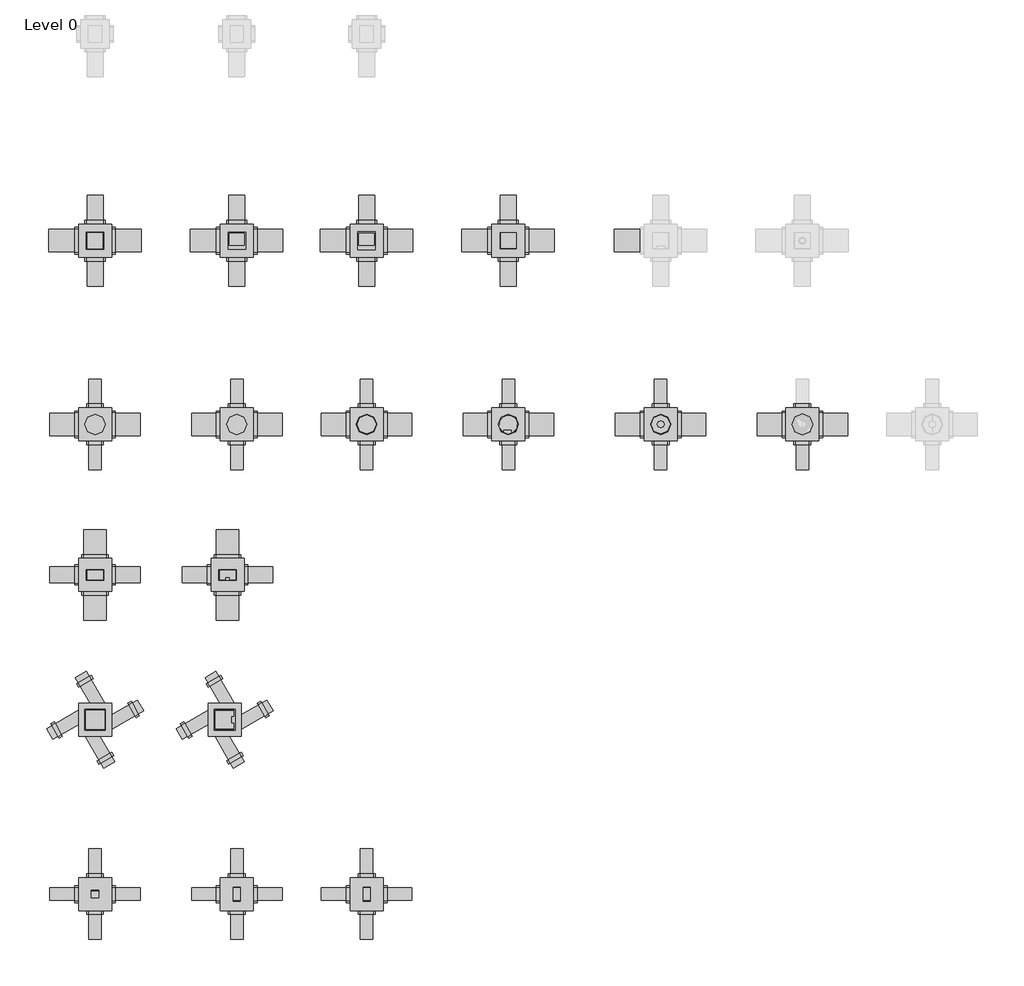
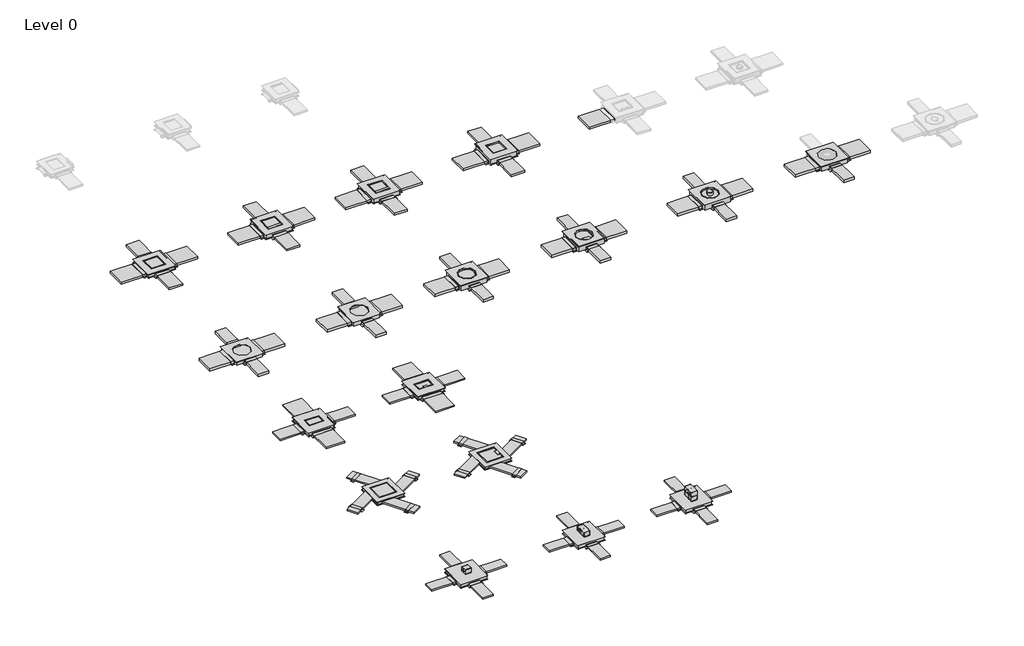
# One storey, part 1 of 2: 68 cable carrier segments, 17 cable carrier fittings, 14 proxies.
"""IFC4 building model written with IfcOpenShell, lengths in millimetres."""

from ifc_helpers import new_model, si_unit, frame, origin, place, context, project, spatial, polyline, outline, extrude, transform, mapped, element, save
from components import electrical_fixtures_403837cc, electrical_fixtures_d3cc217f, electrical_fixtures_8427cab8, electrical_fixtures_bc675c06, color_deep_black_c19cb628, color_deep_black_fa90bbad, color_deep_black_c4cdae59, color_deep_black_3e0b7094, color_deep_black_f01a6ed9, color_deep_black_919f03ab, stainless_steel_cassette_q12_bl_outer_height_28mm_38aa1d54, stainless_steel_cassette_r12_bl_outer_height_28mm_3aa149c4, stainless_steel_cassette_r12_le_outer_height_28mm_2c233eef, stainless_steel_cassette_r12_tm_outer_height_28mm_0be30e54, cable_carrier_fitting_cb3f23ee, cable_carrier_fitting_f97b21a2, cable_carrier_fitting_74eefb0c, cable_carrier_fitting_8ec82d7f, cable_carrier_fitting_5f74ec3e, universal_junction_box_with_bottom_plate_size_3_e0c27931, universal_junction_box_with_bottom_plate_size_3_beba6617, universal_junction_box_with_bottom_plate_size_3_e983a607, universal_junction_box_with_bottom_plate_size_3_fc0b7f47, universal_junction_box_with_bottom_plate_size_3_c41442bd, universal_junction_box_with_bottom_plate_size_3_7e383dc2, universal_junction_box_with_sheet_metal_casing_size_3_1634ce7a

model = new_model("IFC4")

# Units and contexts
model_context = context("Model", 3, world=origin())
ifc_project = project(units=[si_unit("LENGTHUNIT", "METRE", prefix="MILLI")], contexts=[model_context])

# Site, building, storey
site = spatial("IfcSite", under=ifc_project)
building = spatial("IfcBuilding", under=site)
storey = spatial("IfcBuildingStorey", under=building, Name="Level 0", Elevation=0.0)

# Proxies
placement = place(None, origin())
electrical_fixtures_shape = electrical_fixtures_403837cc(model_context)
element("IfcBuildingElementProxy", 1, Name="Electrical_Installation_Hager_VE-EE_Pedestal-box-8 : GB pedestal box 8 inst. fields iron gray", ObjectType="Electrical_Installation_Hager_VE-EE_Pedestal-box-8 : GB pedestal box 8 inst. fields iron gray", at=placement, inside=storey, context=model_context, shape_type="MappedRepresentation", body=[
    mapped(electrical_fixtures_shape, transform((-4342.5203768, -11668.1416898, 56.0), x_axis=(1.0, 0.0, 0.0), y_axis=(0.0, 1.0, 0.0), z_axis=(0.0, 0.0, 1.0))),
])
electrical_fixtures_2_shape = electrical_fixtures_d3cc217f(model_context)
element("IfcBuildingElementProxy", 2, Name="Electrical_Installation_Hager_VE-EE_Pedestal-box-4 : GB pedestal box 4 inst. fields iron gray", ObjectType="Electrical_Installation_Hager_VE-EE_Pedestal-box-4 : GB pedestal box 4 inst. fields iron gray", at=placement, inside=storey, context=model_context, shape_type="MappedRepresentation", body=[
    mapped(electrical_fixtures_2_shape, transform((-6302.5203768, -11668.1416898, 56.0), x_axis=(1.0, 0.0, 0.0), y_axis=(0.0, 1.0, 0.0), z_axis=(0.0, 0.0, 1.0))),
])
electrical_fixtures_3_shape = electrical_fixtures_8427cab8(model_context)
element("IfcBuildingElementProxy", 3, Name="Electrical_Installation_Hager_VE-EE_Service-unit-VQ12-made-of-stainless-steel : Electrical_Installation_Hager_VE-EE_Service-unit-VQ12-made-of-stainless-steel", ObjectType="Electrical_Installation_Hager_VE-EE_Service-unit-VQ12-made-of-stainless-steel : Electrical_Installation_Hager_VE-EE_Service-unit-VQ12-made-of-stainless-steel", at=placement, inside=storey, context=model_context, shape_type="MappedRepresentation", body=[
    mapped(electrical_fixtures_3_shape, transform((-4342.5203768, -1802.7596237, 73.0), x_axis=(1.0, 0.0, 0.0), y_axis=(0.0, 1.0, 0.0), z_axis=(0.0, 0.0, 1.0))),
])
electrical_fixtures_4_shape = electrical_fixtures_bc675c06(model_context)
element("IfcBuildingElementProxy", 4, Name="Electrical_Installation_Hager_VE-EE_Pedestal-box-2 : GB pedestal box 2 inst. fields iron gray", ObjectType="Electrical_Installation_Hager_VE-EE_Pedestal-box-2 : GB pedestal box 2 inst. fields iron gray", at=placement, inside=storey, context=model_context, shape_type="MappedRepresentation", body=[
    mapped(electrical_fixtures_4_shape, transform((-8442.5203768, -11668.1416898, 56.0), x_axis=(1.0, 0.0, 0.0), y_axis=(0.0, 1.0, 0.0), z_axis=(0.0, 0.0, 1.0))),
])
color_deep_black_shape = color_deep_black_c19cb628(model_context)
element("IfcBuildingElementProxy", 5, Name="Electrical_Installation_Hager_VE-EE_Cover-VDQ12 : Color Deep Black", ObjectType="Electrical_Installation_Hager_VE-EE_Cover-VDQ12 : Color Deep Black", at=placement, inside=storey, context=model_context, shape_type="MappedRepresentation", body=[
    mapped(color_deep_black_shape, transform((-8442.5203768, -1802.7596237, 49.0), x_axis=(1.0, 0.0, 0.0), y_axis=(0.0, 1.0, 0.0), z_axis=(0.0, 0.0, 1.0))),
])
color_deep_black_2_shape = color_deep_black_fa90bbad(model_context)
element("IfcBuildingElementProxy", 6, Name="Electrical_Installation_Hager_VE-EE_Service-Unit-VQ12 : Color Deep Black", ObjectType="Electrical_Installation_Hager_VE-EE_Service-Unit-VQ12 : Color Deep Black", at=placement, inside=storey, context=model_context, shape_type="MappedRepresentation", body=[
    mapped(color_deep_black_2_shape, transform((-6302.5203768, -1802.7596237, 66.0), x_axis=(1.0, 0.0, 0.0), y_axis=(0.0, 1.0, 0.0), z_axis=(0.0, 0.0, 1.0))),
])
color_deep_black_3_shape = color_deep_black_c4cdae59(model_context)
element("IfcBuildingElementProxy", 7, Name="Electrical_Installation_Hager_VE-EE_Cover-BDE04 : Color Deep Black", ObjectType="Electrical_Installation_Hager_VE-EE_Cover-BDE04 : Color Deep Black", at=placement, inside=storey, context=model_context, shape_type="MappedRepresentation", body=[
    mapped(color_deep_black_3_shape, transform((-8442.5203768, -6848.9254072, 56.0), x_axis=(1.0, 0.0, 0.0), y_axis=(0.0, 1.0, 0.0), z_axis=(0.0, 0.0, 1.0))),
])
color_deep_black_4_shape = color_deep_black_3e0b7094(model_context)
element("IfcBuildingElementProxy", 8, Name="Electrical_Installation_Hager_VE-EE_Cover-BDQ08 : Color Deep Black", ObjectType="Electrical_Installation_Hager_VE-EE_Cover-BDQ08 : Color Deep Black", at=placement, inside=storey, context=model_context, shape_type="MappedRepresentation", body=[
    mapped(color_deep_black_4_shape, transform((-8442.5203768, -9035.5969539, 47.0), x_axis=(1.0, 0.0, 0.0), y_axis=(0.0, 1.0, 0.0), z_axis=(0.0, 0.0, 1.0))),
])
color_deep_black_5_shape = color_deep_black_f01a6ed9(model_context)
element("IfcBuildingElementProxy", 9, Name="Electrical_Installation_Hager_VE-EE_Cover-KDQ08 : Color Deep Black", ObjectType="Electrical_Installation_Hager_VE-EE_Cover-KDQ08 : Color Deep Black", at=placement, inside=storey, context=model_context, shape_type="MappedRepresentation", body=[
    mapped(color_deep_black_5_shape, transform((-6485.5203768, -9035.5969539, 39.0), x_axis=(1.0, 0.0, 0.0), y_axis=(0.0, 1.0, 0.0), z_axis=(0.0, 0.0, 1.0))),
])
color_deep_black_6_shape = color_deep_black_919f03ab(model_context)
element("IfcBuildingElementProxy", 10, Name="Electrical_Installation_Hager_VE-EE_Cover-KDE04 : Color Deep Black", ObjectType="Electrical_Installation_Hager_VE-EE_Cover-KDE04 : Color Deep Black", at=placement, inside=storey, context=model_context, shape_type="MappedRepresentation", body=[
    mapped(color_deep_black_6_shape, transform((-6442.5203768, -6848.9254072, 56.0), x_axis=(1.0, 0.0, 0.0), y_axis=(0.0, 1.0, 0.0), z_axis=(0.0, 0.0, 1.0))),
])
stainless_steel_cassette_q12_bl_outer_height_28mm_shape = stainless_steel_cassette_q12_bl_outer_height_28mm_38aa1d54(model_context)
element("IfcBuildingElementProxy", 11, Name="Electrical_Installation_Hager_VE-EE_EKQ-Height-adjustable-stainless-steel-cassette-blank-square-for-damp-cleaned-floors : Stainless-steel cassette Q12 BL outer height 28mm", ObjectType="Electrical_Installation_Hager_VE-EE_EKQ-Height-adjustable-stainless-steel-cassette-blank-square-for-damp-cleaned-floors : Stainless-steel cassette Q12 BL outer height 28mm", at=placement, inside=storey, context=model_context, shape_type="MappedRepresentation", body=[
    mapped(stainless_steel_cassette_q12_bl_outer_height_28mm_shape, transform((-2202.5203768, -1802.7596237, 89.0), x_axis=(1.0, 0.0, 0.0), y_axis=(0.0, 1.0, 0.0), z_axis=(0.0, 0.0, 1.0))),
])
stainless_steel_cassette_r12_bl_outer_height_28mm_shape = stainless_steel_cassette_r12_bl_outer_height_28mm_3aa149c4(model_context)
element("IfcBuildingElementProxy", 12, Name="Electrical_Installation_Hager_VE-EE_EKR-Height-adjustable-stainless-steel-cassette-blank-round-for-damp-cleaned-floors : Stainless-steel cassette R12 BL outer height 28mm", ObjectType="Electrical_Installation_Hager_VE-EE_EKR-Height-adjustable-stainless-steel-cassette-blank-round-for-damp-cleaned-floors : Stainless-steel cassette R12 BL outer height 28mm", at=placement, inside=storey, context=model_context, shape_type="MappedRepresentation", body=[
    mapped(stainless_steel_cassette_r12_bl_outer_height_28mm_shape, transform((-4342.5203768, -4575.9376679, 84.0), x_axis=(1.0, 0.0, 0.0), y_axis=(0.0, 1.0, 0.0), z_axis=(0.0, 0.0, 1.0))),
])
stainless_steel_cassette_r12_le_outer_height_28mm_shape = stainless_steel_cassette_r12_le_outer_height_28mm_2c233eef(model_context)
element("IfcBuildingElementProxy", 13, Name="Electrical_Installation_Hager_VE-EE_EKR-Height-adjustable-stainless-steel-cassette-with-square-cable-outlet-for-dry-cleaned-floors : Stainless-steel cassette R12 LE outer height 28mm", ObjectType="Electrical_Installation_Hager_VE-EE_EKR-Height-adjustable-stainless-steel-cassette-with-square-cable-outlet-for-dry-cleaned-floors : Stainless-steel cassette R12 LE outer height 28mm", at=placement, inside=storey, context=model_context, shape_type="MappedRepresentation", body=[
    mapped(stainless_steel_cassette_r12_le_outer_height_28mm_shape, transform((-2202.5203768, -4575.9376679, 84.0), x_axis=(1.0, 0.0, 0.0), y_axis=(0.0, 1.0, 0.0), z_axis=(0.0, 0.0, 1.0))),
])
stainless_steel_cassette_r12_tm_outer_height_28mm_shape = stainless_steel_cassette_r12_tm_outer_height_28mm_0be30e54(model_context)
element("IfcBuildingElementProxy", 14, Name="Electrical_Installation_Hager_VE-EE_EKR-Height-adjustable-stainless-steel-cassette-with-tube-mounting-set-round-for-damp-cleaned-floors : Stainless-steel cassette R12 TM outer height 28mm", ObjectType="Electrical_Installation_Hager_VE-EE_EKR-Height-adjustable-stainless-steel-cassette-with-tube-mounting-set-round-for-damp-cleaned-floors : Stainless-steel cassette R12 TM outer height 28mm", at=placement, inside=storey, context=model_context, shape_type="MappedRepresentation", body=[
    mapped(stainless_steel_cassette_r12_tm_outer_height_28mm_shape, transform((97.4796232, -4575.9376679, 84.0), x_axis=(1.0, 0.0, 0.0), y_axis=(0.0, 1.0, 0.0), z_axis=(0.0, 0.0, 1.0))),
])

# Cable carrier fittings
cable_carrier_fitting_shape = cable_carrier_fitting_cb3f23ee(model_context)
element("IfcCableCarrierFitting", 15, ObjectType="Electrical-Installations_Hager_Universal-Junction-Box-With-Retaining-Tabs-Size-3 : Universal junction box with retaining tabs size 3", at=placement, inside=storey, context=model_context, shape_type="MappedRepresentation", body=[
    mapped(cable_carrier_fitting_shape, transform((-8442.5203768, -4575.9376679, 0.0), x_axis=(1.0, 0.0, 0.0), y_axis=(0.0, 1.0, 0.0), z_axis=(0.0, 0.0, 1.0))),
])
cable_carrier_fitting_2_shape = cable_carrier_fitting_f97b21a2(model_context)
element("IfcCableCarrierFitting", 16, ObjectType="Electrical-Installations_Hager_Universal-Junction-Box-With-Retaining-Tabs-Size-3 : Universal junction box with retaining tabs size 3", at=placement, inside=storey, context=model_context, shape_type="MappedRepresentation", body=[
    mapped(cable_carrier_fitting_2_shape, transform((-6302.5203768, -4575.9376679, 0.0), x_axis=(1.0, 0.0, 0.0), y_axis=(0.0, 1.0, 0.0), z_axis=(0.0, 0.0, 1.0))),
])
cable_carrier_fitting_3_shape = cable_carrier_fitting_74eefb0c(model_context)
element("IfcCableCarrierFitting", 17, ObjectType="Electrical-Installations_Hager_Universal-Junction-Box-With-Retaining-Tabs-Size-3 : Universal junction box with retaining tabs size 3", at=placement, inside=storey, context=model_context, shape_type="MappedRepresentation", body=[
    mapped(cable_carrier_fitting_3_shape, transform((-4342.5203768, -4575.9376679, 0.0), x_axis=(1.0, 0.0, 0.0), y_axis=(0.0, 1.0, 0.0), z_axis=(0.0, 0.0, 1.0))),
])
element("IfcCableCarrierFitting", 18, ObjectType="Electrical-Installations_Hager_Universal-Junction-Box-With-Retaining-Tabs-Size-3 : Universal junction box with retaining tabs size 3", at=placement, inside=storey, context=model_context, shape_type="MappedRepresentation", body=[
    mapped(cable_carrier_fitting_3_shape, transform((-2202.5203768, -4575.9376679, 0.0), x_axis=(1.0, 0.0, 0.0), y_axis=(0.0, 1.0, 0.0), z_axis=(0.0, 0.0, 1.0))),
])
element("IfcCableCarrierFitting", 19, ObjectType="Electrical-Installations_Hager_Universal-Junction-Box-With-Retaining-Tabs-Size-3 : Universal junction box with retaining tabs size 3", at=placement, inside=storey, context=model_context, shape_type="MappedRepresentation", body=[
    mapped(cable_carrier_fitting_3_shape, transform((97.4796232, -4575.9376679, 0.0), x_axis=(1.0, 0.0, 0.0), y_axis=(0.0, 1.0, 0.0), z_axis=(0.0, 0.0, 1.0))),
])
cable_carrier_fitting_4_shape = cable_carrier_fitting_8ec82d7f(model_context)
element("IfcCableCarrierFitting", 20, ObjectType="Electrical-Installations_Hager_Universal-Junction-Box-With-Retaining-Tabs-Size-3 : Universal junction box with retaining tabs size 3", at=placement, inside=storey, context=model_context, shape_type="MappedRepresentation", body=[
    mapped(cable_carrier_fitting_4_shape, transform((2237.4796232, -4575.9376679, 0.0), x_axis=(1.0, 0.0, 0.0), y_axis=(0.0, 1.0, 0.0), z_axis=(0.0, 0.0, 1.0))),
])
cable_carrier_fitting_5_shape = cable_carrier_fitting_5f74ec3e(model_context)
element("IfcCableCarrierFitting", 21, ObjectType="Electrical-Installations_Hager_Universal-Junction-Box-With-Retaining-Tabs-Size-2 : Universal junction box with retaining tabs size 2", at=placement, inside=storey, context=model_context, shape_type="MappedRepresentation", body=[
    mapped(cable_carrier_fitting_5_shape, transform((-8442.5203768, -11668.1416898, 0.0), x_axis=(1.0, 0.0, 0.0), y_axis=(0.0, 1.0, 0.0), z_axis=(0.0, 0.0, 1.0))),
])
element("IfcCableCarrierFitting", 22, ObjectType="Electrical-Installations_Hager_Universal-Junction-Box-With-Retaining-Tabs-Size-2 : Universal junction box with retaining tabs size 2", at=placement, inside=storey, context=model_context, shape_type="MappedRepresentation", body=[
    mapped(cable_carrier_fitting_5_shape, transform((-6302.5203768, -11668.1416898, 0.0), x_axis=(1.0, 0.0, 0.0), y_axis=(0.0, 1.0, 0.0), z_axis=(0.0, 0.0, 1.0))),
])
element("IfcCableCarrierFitting", 23, ObjectType="Electrical-Installations_Hager_Universal-Junction-Box-With-Retaining-Tabs-Size-2 : Universal junction box with retaining tabs size 2", at=placement, inside=storey, context=model_context, shape_type="MappedRepresentation", body=[
    mapped(cable_carrier_fitting_5_shape, transform((-4342.5203768, -11668.1416898, 0.0), x_axis=(1.0, 0.0, 0.0), y_axis=(0.0, 1.0, 0.0), z_axis=(0.0, 0.0, 1.0))),
])
universal_junction_box_with_bottom_plate_size_3_shape = universal_junction_box_with_bottom_plate_size_3_e0c27931(model_context)
element("IfcCableCarrierFitting", 24, ObjectType="Electrical-Installations_Hager_Universal-Junction-Box-With-Bottom-Plate-Size-3 : Universal junction box with bottom plate size 3", at=placement, inside=storey, context=model_context, shape_type="MappedRepresentation", body=[
    mapped(universal_junction_box_with_bottom_plate_size_3_shape, transform((-8442.5203768, -1802.7596237, 0.0), x_axis=(1.0, 0.0, 0.0), y_axis=(0.0, 1.0, 0.0), z_axis=(0.0, 0.0, 1.0))),
])
universal_junction_box_with_bottom_plate_size_3_2_shape = universal_junction_box_with_bottom_plate_size_3_beba6617(model_context)
element("IfcCableCarrierFitting", 25, ObjectType="Electrical-Installations_Hager_Universal-Junction-Box-With-Bottom-Plate-Size-3 : Universal junction box with bottom plate size 3", at=placement, inside=storey, context=model_context, shape_type="MappedRepresentation", body=[
    mapped(universal_junction_box_with_bottom_plate_size_3_2_shape, transform((-6302.5203768, -1802.7596237, 0.0), x_axis=(1.0, 0.0, 0.0), y_axis=(0.0, 1.0, 0.0), z_axis=(0.0, 0.0, 1.0))),
])
universal_junction_box_with_bottom_plate_size_3_3_shape = universal_junction_box_with_bottom_plate_size_3_e983a607(model_context)
element("IfcCableCarrierFitting", 26, ObjectType="Electrical-Installations_Hager_Universal-Junction-Box-With-Bottom-Plate-Size-3 : Universal junction box with bottom plate size 3", at=placement, inside=storey, context=model_context, shape_type="MappedRepresentation", body=[
    mapped(universal_junction_box_with_bottom_plate_size_3_3_shape, transform((-4342.5203768, -1802.7596237, 0.0), x_axis=(1.0, 0.0, 0.0), y_axis=(0.0, 1.0, 0.0), z_axis=(0.0, 0.0, 1.0))),
])
universal_junction_box_with_bottom_plate_size_3_4_shape = universal_junction_box_with_bottom_plate_size_3_fc0b7f47(model_context)
element("IfcCableCarrierFitting", 27, ObjectType="Electrical-Installations_Hager_Universal-Junction-Box-With-Bottom-Plate-Size-3 : Universal junction box with bottom plate size 3", at=placement, inside=storey, context=model_context, shape_type="MappedRepresentation", body=[
    mapped(universal_junction_box_with_bottom_plate_size_3_4_shape, transform((-2202.5203768, -1802.7596237, 0.0), x_axis=(1.0, 0.0, 0.0), y_axis=(0.0, 1.0, 0.0), z_axis=(0.0, 0.0, 1.0))),
])
universal_junction_box_with_bottom_plate_size_3_5_shape = universal_junction_box_with_bottom_plate_size_3_c41442bd(model_context)
element("IfcCableCarrierFitting", 28, ObjectType="Electrical-Installations_Hager_Universal-Junction-Box-With-Bottom-Plate-Size-3-Angled : Universal junction box with bottom plate size 3", at=placement, inside=storey, context=model_context, shape_type="MappedRepresentation", body=[
    mapped(universal_junction_box_with_bottom_plate_size_3_5_shape, transform((-8442.5203768, -9035.5969539, 0.0), x_axis=(1.0, 0.0, 0.0), y_axis=(0.0, 1.0, 0.0), z_axis=(0.0, 0.0, 1.0))),
])
universal_junction_box_with_bottom_plate_size_3_6_shape = universal_junction_box_with_bottom_plate_size_3_7e383dc2(model_context)
element("IfcCableCarrierFitting", 29, ObjectType="Electrical-Installations_Hager_Universal-Junction-Box-With-Bottom-Plate-Size-3-Angled : Universal junction box with bottom plate size 3", at=placement, inside=storey, context=model_context, shape_type="MappedRepresentation", body=[
    mapped(universal_junction_box_with_bottom_plate_size_3_6_shape, transform((-6485.5203768, -9035.5969539, 0.0), x_axis=(1.0, 0.0, 0.0), y_axis=(0.0, 1.0, 0.0), z_axis=(0.0, 0.0, 1.0))),
])
universal_junction_box_with_sheet_metal_casing_size_3_shape = universal_junction_box_with_sheet_metal_casing_size_3_1634ce7a(model_context)
element("IfcCableCarrierFitting", 30, ObjectType="Electrical-Installations_Hager_Universal-Junction-Box-With-Sheet-Metal-Casing-Size-3 : Universal junction box with sheet metal casing size 3", at=placement, inside=storey, context=model_context, shape_type="MappedRepresentation", body=[
    mapped(universal_junction_box_with_sheet_metal_casing_size_3_shape, transform((-8442.5203768, -6848.9254072, 0.0), x_axis=(0.0, 1.0, 0.0), y_axis=(-1.0, 0.0, 0.0), z_axis=(0.0, 0.0, 1.0))),
])
element("IfcCableCarrierFitting", 31, ObjectType="Electrical-Installations_Hager_Universal-Junction-Box-With-Sheet-Metal-Casing-Size-3 : Universal junction box with sheet metal casing size 3", at=placement, inside=storey, context=model_context, shape_type="MappedRepresentation", body=[
    mapped(universal_junction_box_with_sheet_metal_casing_size_3_shape, transform((-6442.5203768, -6848.9254072, 0.0), x_axis=(0.0, 1.0, 0.0), y_axis=(-1.0, 0.0, 0.0), z_axis=(0.0, 0.0, 1.0))),
])

# Cable carrier segments
element("IfcCableCarrierSegment", 32, ObjectType="Electrical-Installations_Cable-Trays_Hager_Electraplan-Trunking-2-Compartments", at=placement, inside=storey, context=model_context, shape_type="SweptSolid", body=[
    extrude(outline(polyline([(-8248.6246648, -1972.7596237), (-8248.6246648, -1632.7596237), (-7748.6246648, -1632.7596237), (-7748.6246648, -1972.7596237), (-8248.6246648, -1972.7596237)])), frame((0.0, 0.0, -19.0), z_axis=(0.0, 0.0, 1.0), x_axis=(1.0, 0.0, 0.0)), (0.0, 0.0, 1.0), 38.0),
])
element("IfcCableCarrierSegment", 33, ObjectType="Electrical-Installations_Cable-Trays_Hager_Electraplan-Trunking-2-Compartments", at=placement, inside=storey, context=model_context, shape_type="SweptSolid", body=[
    extrude(outline(polyline([(-8322.5203768, -1617.7596237), (-8562.5203768, -1617.7596237), (-8562.5203768, -1117.7596237), (-8322.5203768, -1117.7596237), (-8322.5203768, -1617.7596237)])), frame((0.0, 0.0, -19.0), z_axis=(0.0, 0.0, 1.0), x_axis=(1.0, 0.0, 0.0)), (0.0, 0.0, 1.0), 38.0),
])
element("IfcCableCarrierSegment", 34, ObjectType="Electrical-Installations_Cable-Trays_Hager_Electraplan-Trunking-2-Compartments", at=placement, inside=storey, context=model_context, shape_type="SweptSolid", body=[
    extrude(outline(polyline([(-8644.5203768, -1632.7596237), (-8644.5203768, -1972.7596237), (-9144.5203768, -1972.7596237), (-9144.5203768, -1632.7596237), (-8644.5203768, -1632.7596237)])), frame((0.0, 0.0, -19.0), z_axis=(0.0, 0.0, 1.0), x_axis=(1.0, 0.0, 0.0)), (0.0, 0.0, 1.0), 38.0),
])
element("IfcCableCarrierSegment", 35, ObjectType="Electrical-Installations_Cable-Trays_Hager_Electraplan-Trunking-2-Compartments", at=placement, inside=storey, context=model_context, shape_type="SweptSolid", body=[
    extrude(outline(polyline([(-8562.5203768, -1990.7478206), (-8322.5203768, -1990.7478206), (-8322.5203768, -2490.7478206), (-8562.5203768, -2490.7478206), (-8562.5203768, -1990.7478206)])), frame((0.0, 0.0, -19.0), z_axis=(0.0, 0.0, 1.0), x_axis=(1.0, 0.0, 0.0)), (0.0, 0.0, 1.0), 38.0),
])
element("IfcCableCarrierSegment", 36, ObjectType="Electrical-Installations_Cable-Trays_Hager_Electraplan-Trunking-2-Compartments", at=placement, inside=storey, context=model_context, shape_type="SweptSolid", body=[
    extrude(outline(polyline([(-6108.6246648, -1972.7596237), (-6108.6246648, -1632.7596237), (-5608.6246648, -1632.7596237), (-5608.6246648, -1972.7596237), (-6108.6246648, -1972.7596237)])), frame((0.0, 0.0, -19.0), z_axis=(0.0, 0.0, 1.0), x_axis=(1.0, 0.0, 0.0)), (0.0, 0.0, 1.0), 38.0),
])
element("IfcCableCarrierSegment", 37, ObjectType="Electrical-Installations_Cable-Trays_Hager_Electraplan-Trunking-2-Compartments", at=placement, inside=storey, context=model_context, shape_type="SweptSolid", body=[
    extrude(outline(polyline([(-6182.5203768, -1617.7596237), (-6422.5203768, -1617.7596237), (-6422.5203768, -1117.7596237), (-6182.5203768, -1117.7596237), (-6182.5203768, -1617.7596237)])), frame((0.0, 0.0, -19.0), z_axis=(0.0, 0.0, 1.0), x_axis=(1.0, 0.0, 0.0)), (0.0, 0.0, 1.0), 38.0),
])
element("IfcCableCarrierSegment", 38, ObjectType="Electrical-Installations_Cable-Trays_Hager_Electraplan-Trunking-2-Compartments", at=placement, inside=storey, context=model_context, shape_type="SweptSolid", body=[
    extrude(outline(polyline([(-6504.5203768, -1632.7596237), (-6504.5203768, -1972.7596237), (-7004.5203768, -1972.7596237), (-7004.5203768, -1632.7596237), (-6504.5203768, -1632.7596237)])), frame((0.0, 0.0, -19.0), z_axis=(0.0, 0.0, 1.0), x_axis=(1.0, 0.0, 0.0)), (0.0, 0.0, 1.0), 38.0),
])
element("IfcCableCarrierSegment", 39, ObjectType="Electrical-Installations_Cable-Trays_Hager_Electraplan-Trunking-2-Compartments", at=placement, inside=storey, context=model_context, shape_type="SweptSolid", body=[
    extrude(outline(polyline([(-6422.5203768, -1990.7478206), (-6182.5203768, -1990.7478206), (-6182.5203768, -2490.7478206), (-6422.5203768, -2490.7478206), (-6422.5203768, -1990.7478206)])), frame((0.0, 0.0, -19.0), z_axis=(0.0, 0.0, 1.0), x_axis=(1.0, 0.0, 0.0)), (0.0, 0.0, 1.0), 38.0),
])
element("IfcCableCarrierSegment", 40, ObjectType="Electrical-Installations_Cable-Trays_Hager_Electraplan-Trunking-2-Compartments", at=placement, inside=storey, context=model_context, shape_type="SweptSolid", body=[
    extrude(outline(polyline([(-4148.6246648, -1972.7596237), (-4148.6246648, -1632.7596237), (-3648.6246648, -1632.7596237), (-3648.6246648, -1972.7596237), (-4148.6246648, -1972.7596237)])), frame((0.0, 0.0, -19.0), z_axis=(0.0, 0.0, 1.0), x_axis=(1.0, 0.0, 0.0)), (0.0, 0.0, 1.0), 38.0),
])
element("IfcCableCarrierSegment", 41, ObjectType="Electrical-Installations_Cable-Trays_Hager_Electraplan-Trunking-2-Compartments", at=placement, inside=storey, context=model_context, shape_type="SweptSolid", body=[
    extrude(outline(polyline([(-4222.5203768, -1617.7596237), (-4462.5203768, -1617.7596237), (-4462.5203768, -1117.7596237), (-4222.5203768, -1117.7596237), (-4222.5203768, -1617.7596237)])), frame((0.0, 0.0, -19.0), z_axis=(0.0, 0.0, 1.0), x_axis=(1.0, 0.0, 0.0)), (0.0, 0.0, 1.0), 38.0),
])
element("IfcCableCarrierSegment", 42, ObjectType="Electrical-Installations_Cable-Trays_Hager_Electraplan-Trunking-2-Compartments", at=placement, inside=storey, context=model_context, shape_type="SweptSolid", body=[
    extrude(outline(polyline([(-4544.5203768, -1632.7596237), (-4544.5203768, -1972.7596237), (-5044.5203768, -1972.7596237), (-5044.5203768, -1632.7596237), (-4544.5203768, -1632.7596237)])), frame((0.0, 0.0, -19.0), z_axis=(0.0, 0.0, 1.0), x_axis=(1.0, 0.0, 0.0)), (0.0, 0.0, 1.0), 38.0),
])
element("IfcCableCarrierSegment", 43, ObjectType="Electrical-Installations_Cable-Trays_Hager_Electraplan-Trunking-2-Compartments", at=placement, inside=storey, context=model_context, shape_type="SweptSolid", body=[
    extrude(outline(polyline([(-4462.5203768, -1990.7478206), (-4222.5203768, -1990.7478206), (-4222.5203768, -2490.7478206), (-4462.5203768, -2490.7478206), (-4462.5203768, -1990.7478206)])), frame((0.0, 0.0, -19.0), z_axis=(0.0, 0.0, 1.0), x_axis=(1.0, 0.0, 0.0)), (0.0, 0.0, 1.0), 38.0),
])
element("IfcCableCarrierSegment", 44, ObjectType="Electrical-Installations_Cable-Trays_Hager_Electraplan-Trunking-2-Compartments", at=placement, inside=storey, context=model_context, shape_type="SweptSolid", body=[
    extrude(outline(polyline([(-2008.6246648, -1972.7596237), (-2008.6246648, -1632.7596237), (-1508.6246648, -1632.7596237), (-1508.6246648, -1972.7596237), (-2008.6246648, -1972.7596237)])), frame((0.0, 0.0, -19.0), z_axis=(0.0, 0.0, 1.0), x_axis=(1.0, 0.0, 0.0)), (0.0, 0.0, 1.0), 38.0),
])
element("IfcCableCarrierSegment", 45, ObjectType="Electrical-Installations_Cable-Trays_Hager_Electraplan-Trunking-2-Compartments", at=placement, inside=storey, context=model_context, shape_type="SweptSolid", body=[
    extrude(outline(polyline([(-2082.5203768, -1617.7596237), (-2322.5203768, -1617.7596237), (-2322.5203768, -1117.7596237), (-2082.5203768, -1117.7596237), (-2082.5203768, -1617.7596237)])), frame((0.0, 0.0, -19.0), z_axis=(0.0, 0.0, 1.0), x_axis=(1.0, 0.0, 0.0)), (0.0, 0.0, 1.0), 38.0),
])
element("IfcCableCarrierSegment", 46, ObjectType="Electrical-Installations_Cable-Trays_Hager_Electraplan-Trunking-2-Compartments", at=placement, inside=storey, context=model_context, shape_type="SweptSolid", body=[
    extrude(outline(polyline([(-2404.5203768, -1632.7596237), (-2404.5203768, -1972.7596237), (-2904.5203768, -1972.7596237), (-2904.5203768, -1632.7596237), (-2404.5203768, -1632.7596237)])), frame((0.0, 0.0, -19.0), z_axis=(0.0, 0.0, 1.0), x_axis=(1.0, 0.0, 0.0)), (0.0, 0.0, 1.0), 38.0),
])
element("IfcCableCarrierSegment", 47, ObjectType="Electrical-Installations_Cable-Trays_Hager_Electraplan-Trunking-2-Compartments", at=placement, inside=storey, context=model_context, shape_type="SweptSolid", body=[
    extrude(outline(polyline([(-2322.5203768, -1990.7478206), (-2082.5203768, -1990.7478206), (-2082.5203768, -2490.7478206), (-2322.5203768, -2490.7478206), (-2322.5203768, -1990.7478206)])), frame((0.0, 0.0, -19.0), z_axis=(0.0, 0.0, 1.0), x_axis=(1.0, 0.0, 0.0)), (0.0, 0.0, 1.0), 38.0),
])
element("IfcCableCarrierSegment", 48, ObjectType="Electrical-Installations_Cable-Trays_Hager_Electraplan-Trunking-2-Compartments", at=placement, inside=storey, context=model_context, shape_type="SweptSolid", body=[
    extrude(outline(polyline([(-104.5203768, -1632.7596237), (-104.5203768, -1972.7596237), (-604.5203768, -1972.7596237), (-604.5203768, -1632.7596237), (-104.5203768, -1632.7596237)])), frame((0.0, 0.0, -19.0), z_axis=(0.0, 0.0, 1.0), x_axis=(1.0, 0.0, 0.0)), (0.0, 0.0, 1.0), 38.0),
])
element("IfcCableCarrierSegment", 49, ObjectType="Electrical-Installations_Cable-Trays_Hager_Electraplan-Trunking-3-Compartments", at=placement, inside=storey, context=model_context, shape_type="SweptSolid", body=[
    extrude(outline(polyline([(-8259.5203768, -4745.9376679), (-8259.5203768, -4405.9376679), (-7759.5203768, -4405.9376679), (-7759.5203768, -4745.9376679), (-8259.5203768, -4745.9376679)])), frame((0.0, 0.0, -24.0), z_axis=(0.0, 0.0, 1.0), x_axis=(1.0, 0.0, 0.0)), (0.0, 0.0, 1.0), 48.0),
])
element("IfcCableCarrierSegment", 50, ObjectType="Electrical-Installations_Cable-Trays_Hager_Electraplan-Trunking-3-Compartments", at=placement, inside=storey, context=model_context, shape_type="SweptSolid", body=[
    extrude(outline(polyline([(-8625.5203768, -4405.9376679), (-8625.5203768, -4745.9376679), (-9125.5203768, -4745.9376679), (-9125.5203768, -4405.9376679), (-8625.5203768, -4405.9376679)])), frame((0.0, 0.0, -24.0), z_axis=(0.0, 0.0, 1.0), x_axis=(1.0, 0.0, 0.0)), (0.0, 0.0, 1.0), 48.0),
])
element("IfcCableCarrierSegment", 51, ObjectType="Electrical-Installations_Cable-Trays_Hager_Electraplan-Trunking-3-Compartments", at=placement, inside=storey, context=model_context, shape_type="SweptSolid", body=[
    extrude(outline(polyline([(-8347.5203768, -4392.9376679), (-8537.5203768, -4392.9376679), (-8537.5203768, -3892.9376679), (-8347.5203768, -3892.9376679), (-8347.5203768, -4392.9376679)])), frame((0.0, 0.0, -24.0), z_axis=(0.0, 0.0, 1.0), x_axis=(1.0, 0.0, 0.0)), (0.0, 0.0, 1.0), 48.0),
])
element("IfcCableCarrierSegment", 52, ObjectType="Electrical-Installations_Cable-Trays_Hager_Electraplan-Trunking-3-Compartments", at=placement, inside=storey, context=model_context, shape_type="SweptSolid", body=[
    extrude(outline(polyline([(-8537.5203768, -4758.9376679), (-8347.5203768, -4758.9376679), (-8347.5203768, -5258.9376679), (-8537.5203768, -5258.9376679), (-8537.5203768, -4758.9376679)])), frame((0.0, 0.0, -24.0), z_axis=(0.0, 0.0, 1.0), x_axis=(1.0, 0.0, 0.0)), (0.0, 0.0, 1.0), 48.0),
])
element("IfcCableCarrierSegment", 53, ObjectType="Electrical-Installations_Cable-Trays_Hager_Electraplan-Trunking-3-Compartments", at=placement, inside=storey, context=model_context, shape_type="SweptSolid", body=[
    extrude(outline(polyline([(-6119.5203768, -4745.9376679), (-6119.5203768, -4405.9376679), (-5619.5203768, -4405.9376679), (-5619.5203768, -4745.9376679), (-6119.5203768, -4745.9376679)])), frame((0.0, 0.0, -24.0), z_axis=(0.0, 0.0, 1.0), x_axis=(1.0, 0.0, 0.0)), (0.0, 0.0, 1.0), 48.0),
])
element("IfcCableCarrierSegment", 54, ObjectType="Electrical-Installations_Cable-Trays_Hager_Electraplan-Trunking-3-Compartments", at=placement, inside=storey, context=model_context, shape_type="SweptSolid", body=[
    extrude(outline(polyline([(-6485.5203768, -4405.9376679), (-6485.5203768, -4745.9376679), (-6985.5203768, -4745.9376679), (-6985.5203768, -4405.9376679), (-6485.5203768, -4405.9376679)])), frame((0.0, 0.0, -24.0), z_axis=(0.0, 0.0, 1.0), x_axis=(1.0, 0.0, 0.0)), (0.0, 0.0, 1.0), 48.0),
])
element("IfcCableCarrierSegment", 55, ObjectType="Electrical-Installations_Cable-Trays_Hager_Electraplan-Trunking-3-Compartments", at=placement, inside=storey, context=model_context, shape_type="SweptSolid", body=[
    extrude(outline(polyline([(-6207.5203768, -4392.9376679), (-6397.5203768, -4392.9376679), (-6397.5203768, -3892.9376679), (-6207.5203768, -3892.9376679), (-6207.5203768, -4392.9376679)])), frame((0.0, 0.0, -24.0), z_axis=(0.0, 0.0, 1.0), x_axis=(1.0, 0.0, 0.0)), (0.0, 0.0, 1.0), 48.0),
])
element("IfcCableCarrierSegment", 56, ObjectType="Electrical-Installations_Cable-Trays_Hager_Electraplan-Trunking-3-Compartments", at=placement, inside=storey, context=model_context, shape_type="SweptSolid", body=[
    extrude(outline(polyline([(-6397.5203768, -4758.9376679), (-6207.5203768, -4758.9376679), (-6207.5203768, -5258.9376679), (-6397.5203768, -5258.9376679), (-6397.5203768, -4758.9376679)])), frame((0.0, 0.0, -24.0), z_axis=(0.0, 0.0, 1.0), x_axis=(1.0, 0.0, 0.0)), (0.0, 0.0, 1.0), 48.0),
])
element("IfcCableCarrierSegment", 57, ObjectType="Electrical-Installations_Cable-Trays_Hager_Electraplan-Trunking-3-Compartments", at=placement, inside=storey, context=model_context, shape_type="SweptSolid", body=[
    extrude(outline(polyline([(-4159.5203768, -4745.9376679), (-4159.5203768, -4405.9376679), (-3659.5203768, -4405.9376679), (-3659.5203768, -4745.9376679), (-4159.5203768, -4745.9376679)])), frame((0.0, 0.0, -24.0), z_axis=(0.0, 0.0, 1.0), x_axis=(1.0, 0.0, 0.0)), (0.0, 0.0, 1.0), 48.0),
])
element("IfcCableCarrierSegment", 58, ObjectType="Electrical-Installations_Cable-Trays_Hager_Electraplan-Trunking-3-Compartments", at=placement, inside=storey, context=model_context, shape_type="SweptSolid", body=[
    extrude(outline(polyline([(-4525.5203768, -4405.9376679), (-4525.5203768, -4745.9376679), (-5025.5203768, -4745.9376679), (-5025.5203768, -4405.9376679), (-4525.5203768, -4405.9376679)])), frame((0.0, 0.0, -24.0), z_axis=(0.0, 0.0, 1.0), x_axis=(1.0, 0.0, 0.0)), (0.0, 0.0, 1.0), 48.0),
])
element("IfcCableCarrierSegment", 59, ObjectType="Electrical-Installations_Cable-Trays_Hager_Electraplan-Trunking-3-Compartments", at=placement, inside=storey, context=model_context, shape_type="SweptSolid", body=[
    extrude(outline(polyline([(-4247.5203768, -4392.9376679), (-4437.5203768, -4392.9376679), (-4437.5203768, -3892.9376679), (-4247.5203768, -3892.9376679), (-4247.5203768, -4392.9376679)])), frame((0.0, 0.0, -24.0), z_axis=(0.0, 0.0, 1.0), x_axis=(1.0, 0.0, 0.0)), (0.0, 0.0, 1.0), 48.0),
])
element("IfcCableCarrierSegment", 60, ObjectType="Electrical-Installations_Cable-Trays_Hager_Electraplan-Trunking-3-Compartments", at=placement, inside=storey, context=model_context, shape_type="SweptSolid", body=[
    extrude(outline(polyline([(-4437.5203768, -4758.9376679), (-4247.5203768, -4758.9376679), (-4247.5203768, -5258.9376679), (-4437.5203768, -5258.9376679), (-4437.5203768, -4758.9376679)])), frame((0.0, 0.0, -24.0), z_axis=(0.0, 0.0, 1.0), x_axis=(1.0, 0.0, 0.0)), (0.0, 0.0, 1.0), 48.0),
])
element("IfcCableCarrierSegment", 61, ObjectType="Electrical-Installations_Cable-Trays_Hager_Electraplan-Trunking-3-Compartments", at=placement, inside=storey, context=model_context, shape_type="SweptSolid", body=[
    extrude(outline(polyline([(-2019.5203768, -4745.9376679), (-2019.5203768, -4405.9376679), (-1519.5203768, -4405.9376679), (-1519.5203768, -4745.9376679), (-2019.5203768, -4745.9376679)])), frame((0.0, 0.0, -24.0), z_axis=(0.0, 0.0, 1.0), x_axis=(1.0, 0.0, 0.0)), (0.0, 0.0, 1.0), 48.0),
])
element("IfcCableCarrierSegment", 62, ObjectType="Electrical-Installations_Cable-Trays_Hager_Electraplan-Trunking-3-Compartments", at=placement, inside=storey, context=model_context, shape_type="SweptSolid", body=[
    extrude(outline(polyline([(-2385.5203768, -4405.9376679), (-2385.5203768, -4745.9376679), (-2885.5203768, -4745.9376679), (-2885.5203768, -4405.9376679), (-2385.5203768, -4405.9376679)])), frame((0.0, 0.0, -24.0), z_axis=(0.0, 0.0, 1.0), x_axis=(1.0, 0.0, 0.0)), (0.0, 0.0, 1.0), 48.0),
])
element("IfcCableCarrierSegment", 63, ObjectType="Electrical-Installations_Cable-Trays_Hager_Electraplan-Trunking-3-Compartments", at=placement, inside=storey, context=model_context, shape_type="SweptSolid", body=[
    extrude(outline(polyline([(-2107.5203768, -4392.9376679), (-2297.5203768, -4392.9376679), (-2297.5203768, -3892.9376679), (-2107.5203768, -3892.9376679), (-2107.5203768, -4392.9376679)])), frame((0.0, 0.0, -24.0), z_axis=(0.0, 0.0, 1.0), x_axis=(1.0, 0.0, 0.0)), (0.0, 0.0, 1.0), 48.0),
])
element("IfcCableCarrierSegment", 64, ObjectType="Electrical-Installations_Cable-Trays_Hager_Electraplan-Trunking-3-Compartments", at=placement, inside=storey, context=model_context, shape_type="SweptSolid", body=[
    extrude(outline(polyline([(-2297.5203768, -4758.9376679), (-2107.5203768, -4758.9376679), (-2107.5203768, -5258.9376679), (-2297.5203768, -5258.9376679), (-2297.5203768, -4758.9376679)])), frame((0.0, 0.0, -24.0), z_axis=(0.0, 0.0, 1.0), x_axis=(1.0, 0.0, 0.0)), (0.0, 0.0, 1.0), 48.0),
])
element("IfcCableCarrierSegment", 65, ObjectType="Electrical-Installations_Cable-Trays_Hager_Electraplan-Trunking-3-Compartments", at=placement, inside=storey, context=model_context, shape_type="SweptSolid", body=[
    extrude(outline(polyline([(280.4796232, -4745.9376679), (280.4796232, -4405.9376679), (780.4796232, -4405.9376679), (780.4796232, -4745.9376679), (280.4796232, -4745.9376679)])), frame((0.0, 0.0, -24.0), z_axis=(0.0, 0.0, 1.0), x_axis=(1.0, 0.0, 0.0)), (0.0, 0.0, 1.0), 48.0),
])
element("IfcCableCarrierSegment", 66, ObjectType="Electrical-Installations_Cable-Trays_Hager_Electraplan-Trunking-3-Compartments", at=placement, inside=storey, context=model_context, shape_type="SweptSolid", body=[
    extrude(outline(polyline([(-85.5203768, -4405.9376679), (-85.5203768, -4745.9376679), (-585.5203768, -4745.9376679), (-585.5203768, -4405.9376679), (-85.5203768, -4405.9376679)])), frame((0.0, 0.0, -24.0), z_axis=(0.0, 0.0, 1.0), x_axis=(1.0, 0.0, 0.0)), (0.0, 0.0, 1.0), 48.0),
])
element("IfcCableCarrierSegment", 67, ObjectType="Electrical-Installations_Cable-Trays_Hager_Electraplan-Trunking-3-Compartments", at=placement, inside=storey, context=model_context, shape_type="SweptSolid", body=[
    extrude(outline(polyline([(192.4796232, -4392.9376679), (2.4796232, -4392.9376679), (2.4796232, -3892.9376679), (192.4796232, -3892.9376679), (192.4796232, -4392.9376679)])), frame((0.0, 0.0, -24.0), z_axis=(0.0, 0.0, 1.0), x_axis=(1.0, 0.0, 0.0)), (0.0, 0.0, 1.0), 48.0),
])
element("IfcCableCarrierSegment", 68, ObjectType="Electrical-Installations_Cable-Trays_Hager_Electraplan-Trunking-3-Compartments", at=placement, inside=storey, context=model_context, shape_type="SweptSolid", body=[
    extrude(outline(polyline([(2.4796232, -4758.9376679), (192.4796232, -4758.9376679), (192.4796232, -5258.9376679), (2.4796232, -5258.9376679), (2.4796232, -4758.9376679)])), frame((0.0, 0.0, -24.0), z_axis=(0.0, 0.0, 1.0), x_axis=(1.0, 0.0, 0.0)), (0.0, 0.0, 1.0), 48.0),
])
element("IfcCableCarrierSegment", 69, ObjectType="Electrical-Installations_Cable-Trays_Hager_Electraplan-Trunking-3-Compartments", at=placement, inside=storey, context=model_context, shape_type="SweptSolid", body=[
    extrude(outline(polyline([(2420.4796232, -4745.9376679), (2420.4796232, -4405.9376679), (2920.4796232, -4405.9376679), (2920.4796232, -4745.9376679), (2420.4796232, -4745.9376679)])), frame((0.0, 0.0, -24.0), z_axis=(0.0, 0.0, 1.0), x_axis=(1.0, 0.0, 0.0)), (0.0, 0.0, 1.0), 48.0),
])
element("IfcCableCarrierSegment", 70, ObjectType="Electrical-Installations_Cable-Trays_Hager_Electraplan-Trunking-3-Compartments", at=placement, inside=storey, context=model_context, shape_type="SweptSolid", body=[
    extrude(outline(polyline([(2054.4796232, -4405.9376679), (2054.4796232, -4745.9376679), (1554.4796232, -4745.9376679), (1554.4796232, -4405.9376679), (2054.4796232, -4405.9376679)])), frame((0.0, 0.0, -24.0), z_axis=(0.0, 0.0, 1.0), x_axis=(1.0, 0.0, 0.0)), (0.0, 0.0, 1.0), 48.0),
])
element("IfcCableCarrierSegment", 71, ObjectType="Electrical-Installations_Cable-Trays_Hager_Electraplan-Trunking-3-Compartments", at=placement, inside=storey, context=model_context, shape_type="SweptSolid", body=[
    extrude(outline(polyline([(2142.4796232, -4758.9376679), (2332.4796232, -4758.9376679), (2332.4796232, -5258.9376679), (2142.4796232, -5258.9376679), (2142.4796232, -4758.9376679)])), frame((0.0, 0.0, -24.0), z_axis=(0.0, 0.0, 1.0), x_axis=(1.0, 0.0, 0.0)), (0.0, 0.0, 1.0), 48.0),
])
element("IfcCableCarrierSegment", 72, ObjectType="Electrical-Installations_Cable-Trays_Hager_Electraplan-Trunking-3-Compartments", at=placement, inside=storey, context=model_context, shape_type="SweptSolid", body=[
    extrude(outline(polyline([(-8259.5203768, -6968.9254072), (-8259.5203768, -6728.9254072), (-7759.5203768, -6728.9254072), (-7759.5203768, -6968.9254072), (-8259.5203768, -6968.9254072)])), frame((0.0, 0.0, -14.0), z_axis=(0.0, 0.0, 1.0), x_axis=(1.0, 0.0, 0.0)), (0.0, 0.0, 1.0), 28.0),
])
element("IfcCableCarrierSegment", 73, ObjectType="Electrical-Installations_Cable-Trays_Hager_Electraplan-Trunking-3-Compartments", at=placement, inside=storey, context=model_context, shape_type="SweptSolid", body=[
    extrude(outline(polyline([(-8625.5203768, -6728.9254072), (-8625.5203768, -6968.9254072), (-9125.5203768, -6968.9254072), (-9125.5203768, -6728.9254072), (-8625.5203768, -6728.9254072)])), frame((0.0, 0.0, -14.0), z_axis=(0.0, 0.0, 1.0), x_axis=(1.0, 0.0, 0.0)), (0.0, 0.0, 1.0), 28.0),
])
element("IfcCableCarrierSegment", 74, ObjectType="Electrical-Installations_Cable-Trays_Hager_Electraplan-Trunking-3-Compartments", at=placement, inside=storey, context=model_context, shape_type="SweptSolid", body=[
    extrude(outline(polyline([(-8272.5203768, -6665.9254072), (-8612.5203768, -6665.9254072), (-8612.5203768, -6165.9254072), (-8272.5203768, -6165.9254072), (-8272.5203768, -6665.9254072)])), frame((0.0, 0.0, -14.0), z_axis=(0.0, 0.0, 1.0), x_axis=(1.0, 0.0, 0.0)), (0.0, 0.0, 1.0), 28.0),
])
element("IfcCableCarrierSegment", 75, ObjectType="Electrical-Installations_Cable-Trays_Hager_Electraplan-Trunking-3-Compartments", at=placement, inside=storey, context=model_context, shape_type="SweptSolid", body=[
    extrude(outline(polyline([(-8612.5203768, -7031.9254072), (-8272.5203768, -7031.9254072), (-8272.5203768, -7531.9254072), (-8612.5203768, -7531.9254072), (-8612.5203768, -7031.9254072)])), frame((0.0, 0.0, -14.0), z_axis=(0.0, 0.0, 1.0), x_axis=(1.0, 0.0, 0.0)), (0.0, 0.0, 1.0), 28.0),
])
element("IfcCableCarrierSegment", 76, ObjectType="Electrical-Installations_Cable-Trays_Hager_Electraplan-Trunking-3-Compartments", at=placement, inside=storey, context=model_context, shape_type="SweptSolid", body=[
    extrude(outline(polyline([(-6259.5203768, -6968.9254072), (-6259.5203768, -6728.9254072), (-5759.5203768, -6728.9254072), (-5759.5203768, -6968.9254072), (-6259.5203768, -6968.9254072)])), frame((0.0, 0.0, -14.0), z_axis=(0.0, 0.0, 1.0), x_axis=(1.0, 0.0, 0.0)), (0.0, 0.0, 1.0), 28.0),
])
element("IfcCableCarrierSegment", 77, ObjectType="Electrical-Installations_Cable-Trays_Hager_Electraplan-Trunking-3-Compartments", at=placement, inside=storey, context=model_context, shape_type="SweptSolid", body=[
    extrude(outline(polyline([(-6625.5203768, -6728.9254072), (-6625.5203768, -6968.9254072), (-7125.5203768, -6968.9254072), (-7125.5203768, -6728.9254072), (-6625.5203768, -6728.9254072)])), frame((0.0, 0.0, -14.0), z_axis=(0.0, 0.0, 1.0), x_axis=(1.0, 0.0, 0.0)), (0.0, 0.0, 1.0), 28.0),
])
element("IfcCableCarrierSegment", 78, ObjectType="Electrical-Installations_Cable-Trays_Hager_Electraplan-Trunking-3-Compartments", at=placement, inside=storey, context=model_context, shape_type="SweptSolid", body=[
    extrude(outline(polyline([(-6272.5203768, -6665.9254072), (-6612.5203768, -6665.9254072), (-6612.5203768, -6165.9254072), (-6272.5203768, -6165.9254072), (-6272.5203768, -6665.9254072)])), frame((0.0, 0.0, -14.0), z_axis=(0.0, 0.0, 1.0), x_axis=(1.0, 0.0, 0.0)), (0.0, 0.0, 1.0), 28.0),
])
element("IfcCableCarrierSegment", 79, ObjectType="Electrical-Installations_Cable-Trays_Hager_Electraplan-Trunking-3-Compartments", at=placement, inside=storey, context=model_context, shape_type="SweptSolid", body=[
    extrude(outline(polyline([(-6612.5203768, -7031.9254072), (-6272.5203768, -7031.9254072), (-6272.5203768, -7531.9254072), (-6612.5203768, -7531.9254072), (-6612.5203768, -7031.9254072)])), frame((0.0, 0.0, -14.0), z_axis=(0.0, 0.0, 1.0), x_axis=(1.0, 0.0, 0.0)), (0.0, 0.0, 1.0), 28.0),
])
element("IfcCableCarrierSegment", 80, ObjectType="Electrical-Installations_Cable-Trays_Hager_Electraplan-Trunking-3-Compartments", at=placement, inside=storey, context=model_context, shape_type="SweptSolid", body=[
    extrude(outline(polyline([(-8274.7479634, -8822.5969539), (-8439.2927901, -8917.5969539), (-8739.2927901, -8397.9817116), (-8574.7479634, -8302.9817116), (-8274.7479634, -8822.5969539)])), frame((0.0, 0.0, -14.0), z_axis=(0.0, 0.0, 1.0), x_axis=(1.0, 0.0, 0.0)), (0.0, 0.0, 1.0), 28.0),
])
element("IfcCableCarrierSegment", 81, ObjectType="Electrical-Installations_Cable-Trays_Hager_Electraplan-Trunking-3-Compartments", at=placement, inside=storey, context=model_context, shape_type="SweptSolid", body=[
    extrude(outline(polyline([(-8229.5203768, -9203.3693673), (-8324.5203768, -9038.8245405), (-7804.9051345, -8738.8245405), (-7709.9051345, -8903.3693673), (-8229.5203768, -9203.3693673)])), frame((0.0, 0.0, -14.0), z_axis=(0.0, 0.0, 1.0), x_axis=(1.0, 0.0, 0.0)), (0.0, 0.0, 1.0), 28.0),
])
element("IfcCableCarrierSegment", 82, ObjectType="Electrical-Installations_Cable-Trays_Hager_Electraplan-Trunking-3-Compartments", at=placement, inside=storey, context=model_context, shape_type="SweptSolid", body=[
    extrude(outline(polyline([(-8610.2927901, -9248.5969539), (-8445.7479634, -9153.5969539), (-8145.7479634, -9673.2121962), (-8310.2927901, -9768.2121962), (-8610.2927901, -9248.5969539)])), frame((0.0, 0.0, -14.0), z_axis=(0.0, 0.0, 1.0), x_axis=(1.0, 0.0, 0.0)), (0.0, 0.0, 1.0), 28.0),
])
element("IfcCableCarrierSegment", 83, ObjectType="Electrical-Installations_Cable-Trays_Hager_Electraplan-Trunking-3-Compartments", at=placement, inside=storey, context=model_context, shape_type="SweptSolid", body=[
    extrude(outline(polyline([(-8655.5203768, -8867.8245405), (-8560.5203768, -9032.3693673), (-9080.135619, -9332.3693673), (-9175.135619, -9167.8245405), (-8655.5203768, -8867.8245405)])), frame((0.0, 0.0, -14.0), z_axis=(0.0, 0.0, 1.0), x_axis=(1.0, 0.0, 0.0)), (0.0, 0.0, 1.0), 28.0),
])
element("IfcCableCarrierSegment", 84, ObjectType="Electrical-Installations_Cable-Trays_Hager_Electraplan-Trunking-3-Compartments", at=placement, inside=storey, context=model_context, shape_type="SweptSolid", body=[
    extrude(outline(polyline([(-6272.5203768, -9203.3693673), (-6367.5203768, -9038.8245405), (-5847.9051345, -8738.8245405), (-5752.9051345, -8903.3693673), (-6272.5203768, -9203.3693673)])), frame((0.0, 0.0, -14.0), z_axis=(0.0, 0.0, 1.0), x_axis=(1.0, 0.0, 0.0)), (0.0, 0.0, 1.0), 28.0),
])
element("IfcCableCarrierSegment", 85, ObjectType="Electrical-Installations_Cable-Trays_Hager_Electraplan-Trunking-3-Compartments", at=placement, inside=storey, context=model_context, shape_type="SweptSolid", body=[
    extrude(outline(polyline([(-6653.2927901, -9248.5969539), (-6488.7479634, -9153.5969539), (-6188.7479634, -9673.2121962), (-6353.2927901, -9768.2121962), (-6653.2927901, -9248.5969539)])), frame((0.0, 0.0, -14.0), z_axis=(0.0, 0.0, 1.0), x_axis=(1.0, 0.0, 0.0)), (0.0, 0.0, 1.0), 28.0),
])
element("IfcCableCarrierSegment", 86, ObjectType="Electrical-Installations_Cable-Trays_Hager_Electraplan-Trunking-3-Compartments", at=placement, inside=storey, context=model_context, shape_type="SweptSolid", body=[
    extrude(outline(polyline([(-6317.7479634, -8822.5969539), (-6482.2927901, -8917.5969539), (-6782.2927901, -8397.9817116), (-6617.7479634, -8302.9817116), (-6317.7479634, -8822.5969539)])), frame((0.0, 0.0, -14.0), z_axis=(0.0, 0.0, 1.0), x_axis=(1.0, 0.0, 0.0)), (0.0, 0.0, 1.0), 28.0),
])
element("IfcCableCarrierSegment", 87, ObjectType="Electrical-Installations_Cable-Trays_Hager_Electraplan-Trunking-3-Compartments", at=placement, inside=storey, context=model_context, shape_type="SweptSolid", body=[
    extrude(outline(polyline([(-6698.5203768, -8867.8245405), (-6603.5203768, -9032.3693673), (-7123.135619, -9332.3693673), (-7218.135619, -9167.8245405), (-6698.5203768, -8867.8245405)])), frame((0.0, 0.0, -14.0), z_axis=(0.0, 0.0, 1.0), x_axis=(1.0, 0.0, 0.0)), (0.0, 0.0, 1.0), 28.0),
])
element("IfcCableCarrierSegment", 88, ObjectType="Electrical-Installations_Cable-Trays_Hager_Electraplan-Trunking-3-Compartments", at=placement, inside=storey, context=model_context, shape_type="SweptSolid", body=[
    extrude(outline(polyline([(-8259.5203768, -11763.1416898), (-8259.5203768, -11573.1416898), (-7759.5203768, -11573.1416898), (-7759.5203768, -11763.1416898), (-8259.5203768, -11763.1416898)])), frame((0.0, 0.0, -14.0), z_axis=(0.0, 0.0, 1.0), x_axis=(1.0, 0.0, 0.0)), (0.0, 0.0, 1.0), 28.0),
])
element("IfcCableCarrierSegment", 89, ObjectType="Electrical-Installations_Cable-Trays_Hager_Electraplan-Trunking-3-Compartments", at=placement, inside=storey, context=model_context, shape_type="SweptSolid", body=[
    extrude(outline(polyline([(-8347.5203768, -11485.1416898), (-8537.5203768, -11485.1416898), (-8537.5203768, -10985.1416898), (-8347.5203768, -10985.1416898), (-8347.5203768, -11485.1416898)])), frame((0.0, 0.0, -14.0), z_axis=(0.0, 0.0, 1.0), x_axis=(1.0, 0.0, 0.0)), (0.0, 0.0, 1.0), 28.0),
])
element("IfcCableCarrierSegment", 90, ObjectType="Electrical-Installations_Cable-Trays_Hager_Electraplan-Trunking-3-Compartments", at=placement, inside=storey, context=model_context, shape_type="SweptSolid", body=[
    extrude(outline(polyline([(-8625.5203768, -11573.1416898), (-8625.5203768, -11763.1416898), (-9125.5203768, -11763.1416898), (-9125.5203768, -11573.1416898), (-8625.5203768, -11573.1416898)])), frame((0.0, 0.0, -14.0), z_axis=(0.0, 0.0, 1.0), x_axis=(1.0, 0.0, 0.0)), (0.0, 0.0, 1.0), 28.0),
])
element("IfcCableCarrierSegment", 91, ObjectType="Electrical-Installations_Cable-Trays_Hager_Electraplan-Trunking-3-Compartments", at=placement, inside=storey, context=model_context, shape_type="SweptSolid", body=[
    extrude(outline(polyline([(-8537.5203768, -11851.1416898), (-8347.5203768, -11851.1416898), (-8347.5203768, -12351.1416898), (-8537.5203768, -12351.1416898), (-8537.5203768, -11851.1416898)])), frame((0.0, 0.0, -14.0), z_axis=(0.0, 0.0, 1.0), x_axis=(1.0, 0.0, 0.0)), (0.0, 0.0, 1.0), 28.0),
])
element("IfcCableCarrierSegment", 92, ObjectType="Electrical-Installations_Cable-Trays_Hager_Electraplan-Trunking-3-Compartments", at=placement, inside=storey, context=model_context, shape_type="SweptSolid", body=[
    extrude(outline(polyline([(-6119.5203768, -11763.1416898), (-6119.5203768, -11573.1416898), (-5619.5203768, -11573.1416898), (-5619.5203768, -11763.1416898), (-6119.5203768, -11763.1416898)])), frame((0.0, 0.0, -14.0), z_axis=(0.0, 0.0, 1.0), x_axis=(1.0, 0.0, 0.0)), (0.0, 0.0, 1.0), 28.0),
])
element("IfcCableCarrierSegment", 93, ObjectType="Electrical-Installations_Cable-Trays_Hager_Electraplan-Trunking-3-Compartments", at=placement, inside=storey, context=model_context, shape_type="SweptSolid", body=[
    extrude(outline(polyline([(-6207.5203768, -11485.1416898), (-6397.5203768, -11485.1416898), (-6397.5203768, -10985.1416898), (-6207.5203768, -10985.1416898), (-6207.5203768, -11485.1416898)])), frame((0.0, 0.0, -14.0), z_axis=(0.0, 0.0, 1.0), x_axis=(1.0, 0.0, 0.0)), (0.0, 0.0, 1.0), 28.0),
])
element("IfcCableCarrierSegment", 94, ObjectType="Electrical-Installations_Cable-Trays_Hager_Electraplan-Trunking-3-Compartments", at=placement, inside=storey, context=model_context, shape_type="SweptSolid", body=[
    extrude(outline(polyline([(-6485.5203768, -11573.1416898), (-6485.5203768, -11763.1416898), (-6985.5203768, -11763.1416898), (-6985.5203768, -11573.1416898), (-6485.5203768, -11573.1416898)])), frame((0.0, 0.0, -14.0), z_axis=(0.0, 0.0, 1.0), x_axis=(1.0, 0.0, 0.0)), (0.0, 0.0, 1.0), 28.0),
])
element("IfcCableCarrierSegment", 95, ObjectType="Electrical-Installations_Cable-Trays_Hager_Electraplan-Trunking-3-Compartments", at=placement, inside=storey, context=model_context, shape_type="SweptSolid", body=[
    extrude(outline(polyline([(-6397.5203768, -11851.1416898), (-6207.5203768, -11851.1416898), (-6207.5203768, -12351.1416898), (-6397.5203768, -12351.1416898), (-6397.5203768, -11851.1416898)])), frame((0.0, 0.0, -14.0), z_axis=(0.0, 0.0, 1.0), x_axis=(1.0, 0.0, 0.0)), (0.0, 0.0, 1.0), 28.0),
])
element("IfcCableCarrierSegment", 96, ObjectType="Electrical-Installations_Cable-Trays_Hager_Electraplan-Trunking-3-Compartments", at=placement, inside=storey, context=model_context, shape_type="SweptSolid", body=[
    extrude(outline(polyline([(-4159.5203768, -11763.1416898), (-4159.5203768, -11573.1416898), (-3659.5203768, -11573.1416898), (-3659.5203768, -11763.1416898), (-4159.5203768, -11763.1416898)])), frame((0.0, 0.0, -14.0), z_axis=(0.0, 0.0, 1.0), x_axis=(1.0, 0.0, 0.0)), (0.0, 0.0, 1.0), 28.0),
])
element("IfcCableCarrierSegment", 97, ObjectType="Electrical-Installations_Cable-Trays_Hager_Electraplan-Trunking-3-Compartments", at=placement, inside=storey, context=model_context, shape_type="SweptSolid", body=[
    extrude(outline(polyline([(-4247.5203768, -11485.1416898), (-4437.5203768, -11485.1416898), (-4437.5203768, -10985.1416898), (-4247.5203768, -10985.1416898), (-4247.5203768, -11485.1416898)])), frame((0.0, 0.0, -14.0), z_axis=(0.0, 0.0, 1.0), x_axis=(1.0, 0.0, 0.0)), (0.0, 0.0, 1.0), 28.0),
])
element("IfcCableCarrierSegment", 98, ObjectType="Electrical-Installations_Cable-Trays_Hager_Electraplan-Trunking-3-Compartments", at=placement, inside=storey, context=model_context, shape_type="SweptSolid", body=[
    extrude(outline(polyline([(-4525.5203768, -11573.1416898), (-4525.5203768, -11763.1416898), (-5025.5203768, -11763.1416898), (-5025.5203768, -11573.1416898), (-4525.5203768, -11573.1416898)])), frame((0.0, 0.0, -14.0), z_axis=(0.0, 0.0, 1.0), x_axis=(1.0, 0.0, 0.0)), (0.0, 0.0, 1.0), 28.0),
])
element("IfcCableCarrierSegment", 99, ObjectType="Electrical-Installations_Cable-Trays_Hager_Electraplan-Trunking-3-Compartments", at=placement, inside=storey, context=model_context, shape_type="SweptSolid", body=[
    extrude(outline(polyline([(-4437.5203768, -11851.1416898), (-4247.5203768, -11851.1416898), (-4247.5203768, -12351.1416898), (-4437.5203768, -12351.1416898), (-4437.5203768, -11851.1416898)])), frame((0.0, 0.0, -14.0), z_axis=(0.0, 0.0, 1.0), x_axis=(1.0, 0.0, 0.0)), (0.0, 0.0, 1.0), 28.0),
])

save(model, "model.ifc")
